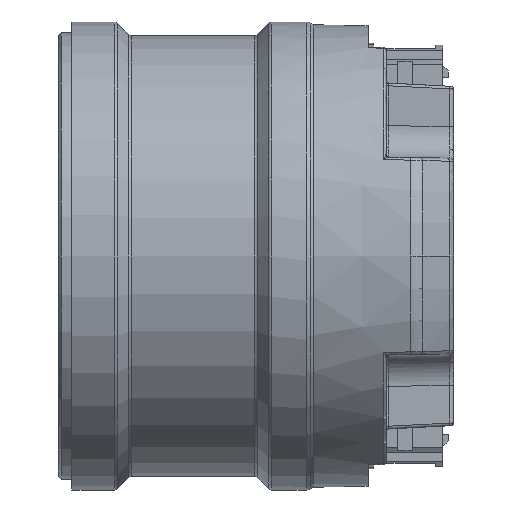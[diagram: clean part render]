
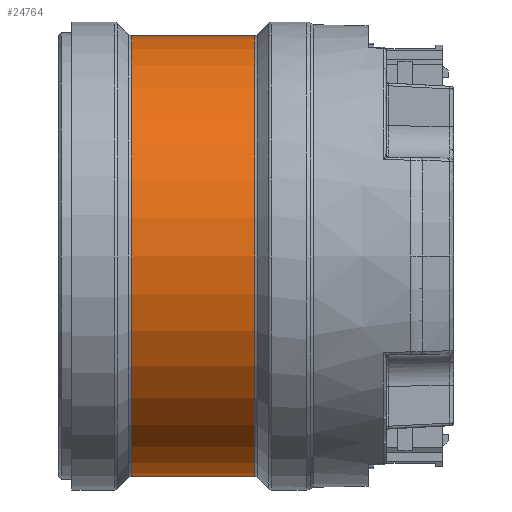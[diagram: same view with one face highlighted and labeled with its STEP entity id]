
A CAD part, left-side view. The second image highlights one B-rep face of the part: STEP entity #24764.
In plain terms, the highlighted cylindrical face has radius 24.5 mm (diameter 49 mm), a partial arc.
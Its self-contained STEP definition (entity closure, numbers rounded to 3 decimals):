
#839 = EDGE_LOOP ( 'NONE', ( #22612, #37601, #54428, #59005 ) ) ;
#1530 = AXIS2_PLACEMENT_3D ( 'NONE', #59789, #12775, #45262 ) ;
#4318 = LINE ( 'NONE', #13847, #32664 ) ;
#5984 = CIRCLE ( 'NONE', #25394, 24.5 ) ;
#6231 = AXIS2_PLACEMENT_3D ( 'NONE', #52713, #39001, #56835 ) ;
#12775 = DIRECTION ( 'NONE',  ( 0., -1., 0. ) ) ;
#13078 = CARTESIAN_POINT ( 'NONE',  ( 0., -24.793, 24.5 ) ) ;
#13475 = EDGE_CURVE ( 'NONE', #41139, #34068, #4318, .T. ) ;
#13847 = CARTESIAN_POINT ( 'NONE',  ( 0., -12., 24.5 ) ) ;
#19831 = EDGE_CURVE ( 'NONE', #48987, #39261, #54392, .T. ) ;
#22612 = ORIENTED_EDGE ( 'NONE', *, *, #13475, .F. ) ;
#24764 = ADVANCED_FACE ( 'NONE', ( #41230 ), #26725, .T. ) ;
#25394 = AXIS2_PLACEMENT_3D ( 'NONE', #39116, #48528, #53222 ) ;
#25454 = CARTESIAN_POINT ( 'NONE',  ( 0., -11.107, -24.5 ) ) ;
#26725 = CYLINDRICAL_SURFACE ( 'NONE', #1530, 24.5 ) ;
#28713 = EDGE_CURVE ( 'NONE', #39261, #34068, #45103, .T. ) ;
#32664 = VECTOR ( 'NONE', #55370, 1000. ) ;
#33853 = EDGE_CURVE ( 'NONE', #41139, #48987, #5984, .T. ) ;
#34068 = VERTEX_POINT ( 'NONE', #13078 ) ;
#37601 = ORIENTED_EDGE ( 'NONE', *, *, #33853, .T. ) ;
#39001 = DIRECTION ( 'NONE',  ( 0., 1., 0. ) ) ;
#39116 = CARTESIAN_POINT ( 'NONE',  ( 0., -11.107, 0. ) ) ;
#39261 = VERTEX_POINT ( 'NONE', #53879 ) ;
#40819 = DIRECTION ( 'NONE',  ( 0., -1., 0. ) ) ;
#41139 = VERTEX_POINT ( 'NONE', #49809 ) ;
#41230 = FACE_OUTER_BOUND ( 'NONE', #839, .T. ) ;
#45103 = CIRCLE ( 'NONE', #6231, 24.5 ) ;
#45262 = DIRECTION ( 'NONE',  ( 0., 0., -1. ) ) ;
#48528 = DIRECTION ( 'NONE',  ( 0., -1., 0. ) ) ;
#48987 = VERTEX_POINT ( 'NONE', #25454 ) ;
#49809 = CARTESIAN_POINT ( 'NONE',  ( 0., -11.107, 24.5 ) ) ;
#50779 = VECTOR ( 'NONE', #40819, 1000. ) ;
#52713 = CARTESIAN_POINT ( 'NONE',  ( 0., -24.793, 0. ) ) ;
#53222 = DIRECTION ( 'NONE',  ( 1., 0., 0. ) ) ;
#53879 = CARTESIAN_POINT ( 'NONE',  ( 0., -24.793, -24.5 ) ) ;
#54392 = LINE ( 'NONE', #59671, #50779 ) ;
#54428 = ORIENTED_EDGE ( 'NONE', *, *, #19831, .T. ) ;
#55370 = DIRECTION ( 'NONE',  ( 0., -1., 0. ) ) ;
#56835 = DIRECTION ( 'NONE',  ( 1., 0., 0. ) ) ;
#59005 = ORIENTED_EDGE ( 'NONE', *, *, #28713, .T. ) ;
#59671 = CARTESIAN_POINT ( 'NONE',  ( 0., -12., -24.5 ) ) ;
#59789 = CARTESIAN_POINT ( 'NONE',  ( 0., -12., 0. ) ) ;
